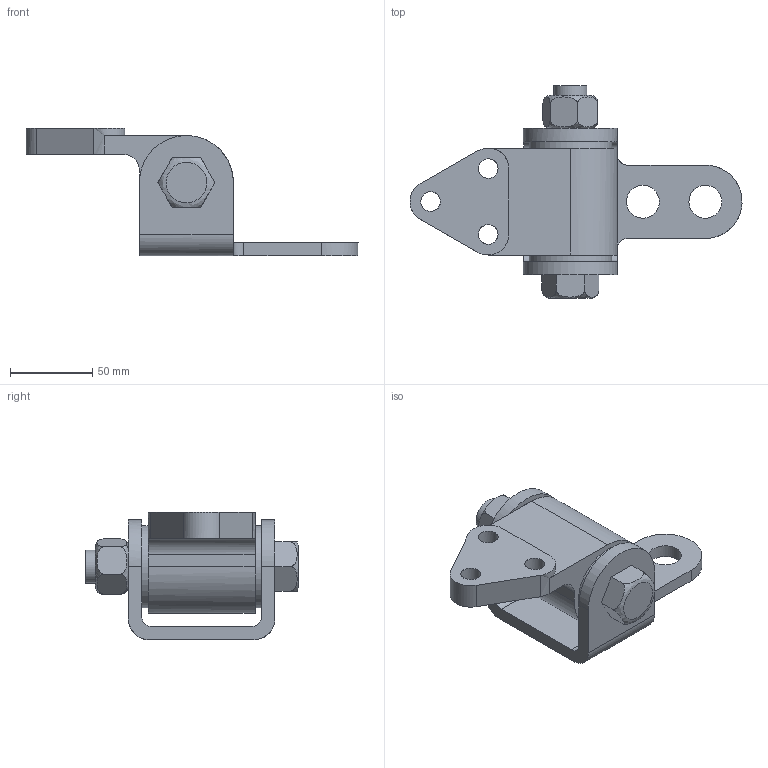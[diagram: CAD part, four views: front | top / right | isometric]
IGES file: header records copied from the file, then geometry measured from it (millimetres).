
Global section: file name: Anti Vibration Mount; native system: Autodesk Inventor 2017; preprocessor: unknown; author: CadCim; date: 20160229.095047; units: millimetre
Bounding box: 201.75 x 129.3 x 77.61 mm (x, y, z)
Volume: 369826.1 mm3; surface area: 98807.4 mm2
Topology: 6 solids, 6 shells, 76 faces, 197 edges, 136 vertices
Faces by surface type: bspline 76
